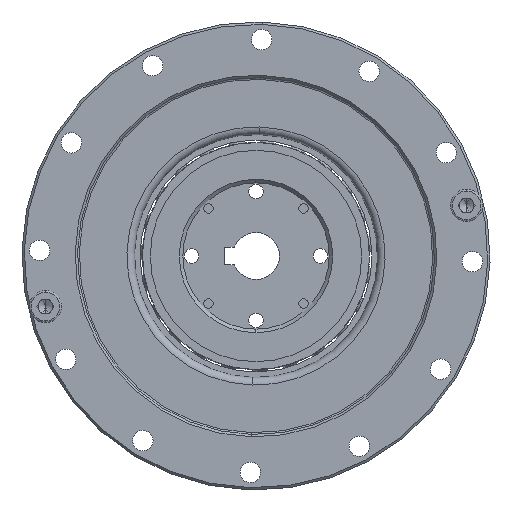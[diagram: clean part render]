
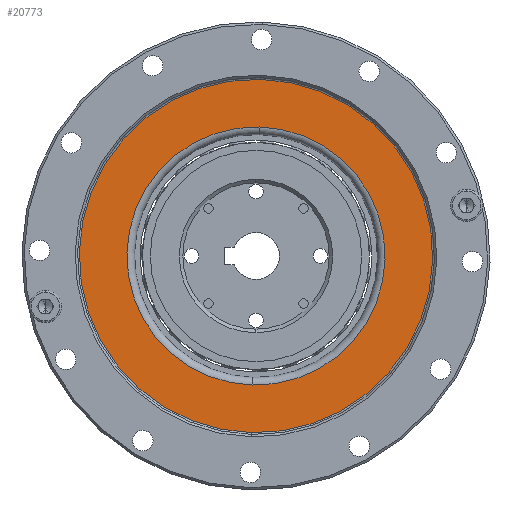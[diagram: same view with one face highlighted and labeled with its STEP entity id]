
A CAD part, left-side view. The second image highlights one B-rep face of the part: STEP entity #20773.
In plain terms, the highlighted planar face has unit normal (-1, 0, 0).
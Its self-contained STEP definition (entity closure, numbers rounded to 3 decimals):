
#1428 = EDGE_LOOP ( 'NONE', ( #22351, #9477 ) ) ;
#1494 = DIRECTION ( 'NONE',  ( 0., 0., 1. ) ) ;
#1774 = CARTESIAN_POINT ( 'NONE',  ( 13.564, 0., -22.061 ) ) ;
#2338 = CARTESIAN_POINT ( 'NONE',  ( 13.564, 0., 0. ) ) ;
#2451 = EDGE_CURVE ( 'NONE', #14903, #13456, #10329, .T. ) ;
#3798 = FACE_OUTER_BOUND ( 'NONE', #1428, .T. ) ;
#4122 = CIRCLE ( 'NONE', #12541, 30.2 ) ;
#4186 = DIRECTION ( 'NONE',  ( 0., 0., 1. ) ) ;
#4284 = CARTESIAN_POINT ( 'NONE',  ( 13.564, 0., 0. ) ) ;
#4848 = VERTEX_POINT ( 'NONE', #22385 ) ;
#5898 = AXIS2_PLACEMENT_3D ( 'NONE', #23695, #9099, #21924 ) ;
#6110 = DIRECTION ( 'NONE',  ( 0., 0., 1. ) ) ;
#6114 = ORIENTED_EDGE ( 'NONE', *, *, #19150, .F. ) ;
#6162 = VERTEX_POINT ( 'NONE', #20763 ) ;
#6627 = AXIS2_PLACEMENT_3D ( 'NONE', #23427, #12436, #1494 ) ;
#7118 = PLANE ( 'NONE',  #5898 ) ;
#7482 = EDGE_CURVE ( 'NONE', #4848, #6162, #4122, .T. ) ;
#8726 = CIRCLE ( 'NONE', #6627, 22.061 ) ;
#9099 = DIRECTION ( 'NONE',  ( 1., 0., 0. ) ) ;
#9477 = ORIENTED_EDGE ( 'NONE', *, *, #16649, .T. ) ;
#10329 = CIRCLE ( 'NONE', #12310, 22.061 ) ;
#10525 = CARTESIAN_POINT ( 'NONE',  ( 13.564, 0., 0. ) ) ;
#11705 = CIRCLE ( 'NONE', #15650, 30.2 ) ;
#12310 = AXIS2_PLACEMENT_3D ( 'NONE', #4284, #17065, #6110 ) ;
#12360 = DIRECTION ( 'NONE',  ( 0., 0., 1. ) ) ;
#12436 = DIRECTION ( 'NONE',  ( -1., 0., 0. ) ) ;
#12541 = AXIS2_PLACEMENT_3D ( 'NONE', #10525, #23354, #12360 ) ;
#13456 = VERTEX_POINT ( 'NONE', #1774 ) ;
#14903 = VERTEX_POINT ( 'NONE', #20583 ) ;
#15134 = DIRECTION ( 'NONE',  ( -1., 0., 0. ) ) ;
#15135 = ORIENTED_EDGE ( 'NONE', *, *, #2451, .F. ) ;
#15650 = AXIS2_PLACEMENT_3D ( 'NONE', #2338, #15134, #4186 ) ;
#16037 = EDGE_LOOP ( 'NONE', ( #15135, #6114 ) ) ;
#16649 = EDGE_CURVE ( 'NONE', #6162, #4848, #11705, .T. ) ;
#17065 = DIRECTION ( 'NONE',  ( -1., 0., 0. ) ) ;
#18405 = FACE_BOUND ( 'NONE', #16037, .T. ) ;
#19150 = EDGE_CURVE ( 'NONE', #13456, #14903, #8726, .T. ) ;
#20583 = CARTESIAN_POINT ( 'NONE',  ( 13.564, 0., 22.061 ) ) ;
#20763 = CARTESIAN_POINT ( 'NONE',  ( 13.564, 0., -30.2 ) ) ;
#20773 = ADVANCED_FACE ( 'NONE', ( #18405, #3798 ), #7118, .F. ) ;
#21924 = DIRECTION ( 'NONE',  ( 0., 0., -1. ) ) ;
#22351 = ORIENTED_EDGE ( 'NONE', *, *, #7482, .T. ) ;
#22385 = CARTESIAN_POINT ( 'NONE',  ( 13.564, 0., 30.2 ) ) ;
#23354 = DIRECTION ( 'NONE',  ( -1., 0., 0. ) ) ;
#23427 = CARTESIAN_POINT ( 'NONE',  ( 13.564, 0., 0. ) ) ;
#23695 = CARTESIAN_POINT ( 'NONE',  ( 13.564, 30.2, 0. ) ) ;
